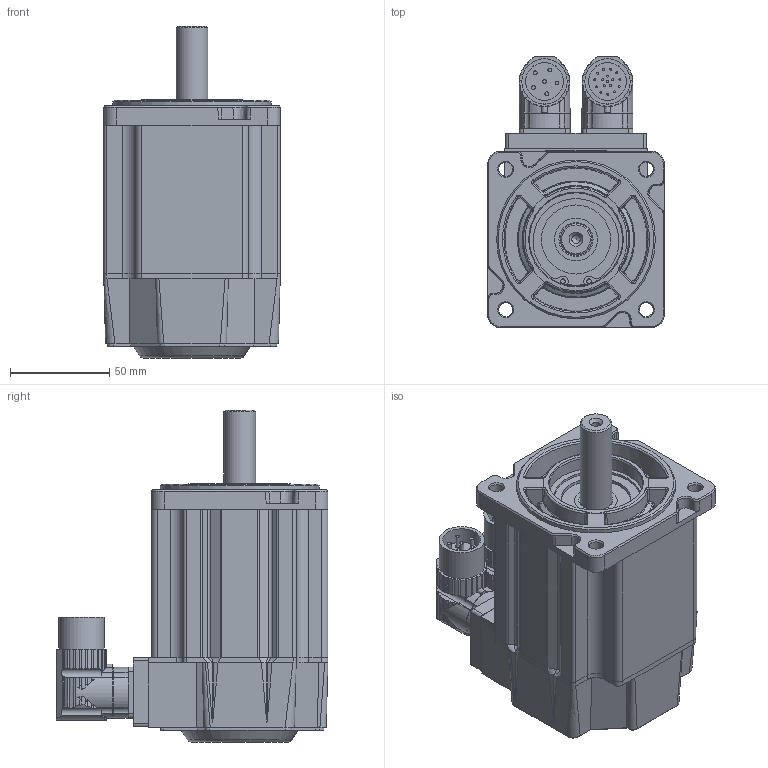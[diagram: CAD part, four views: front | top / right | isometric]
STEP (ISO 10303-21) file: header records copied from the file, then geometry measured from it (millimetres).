
FILE_DESCRIPTION((''),'2;1');
FILE_NAME('C:\CAD_work\Dummy_Modeling_Project_02-12-05\3D MODELS\MPP0921XXX_NPSN.stp','2005-12-20T16:25:35',('jevans'),(''),'Autodesk Inventor 10','Autodesk Inventor 10','');
FILE_SCHEMA(('AUTOMOTIVE_DESIGN { 1 0 10303 214 1 1 1 1 }'));
Length unit declared in the file: inch
Products named in the file (1): MPP092_MOTOR
Bounding box: 88.9 x 137.01 x 167.34 mm (x, y, z)
Volume: 908001.6 mm3; surface area: 87730.5 mm2
Topology: 1 solids, 1 shells, 797 faces, 2073 edges, 1309 vertices
Faces by surface type: bspline 302, cylinder 249, plane 211, cone 24, torus 11
Full cylindrical faces by diameter (mm): 1.016 x17, 1.956 x6, 2.362 x2, 15.999 x1, 16.002 x1, 19.05 x1, 19.66 x1, 21.59 x1, 22.86 x1, 34.823 x1, 46.253 x1, 46.761 x1, 47.015 x2, 49.835 x1, 52.324 x1, 74.93 x1, 80 x1
Entity records: 35727 total; most frequent: CARTESIAN_POINT 18205, ORIENTED_EDGE 3998, DIRECTION 3012, EDGE_CURVE 1999, VERTEX_POINT 1299, AXIS2_PLACEMENT_3D 1127, EDGE_LOOP 924, FACE_OUTER_BOUND 797
